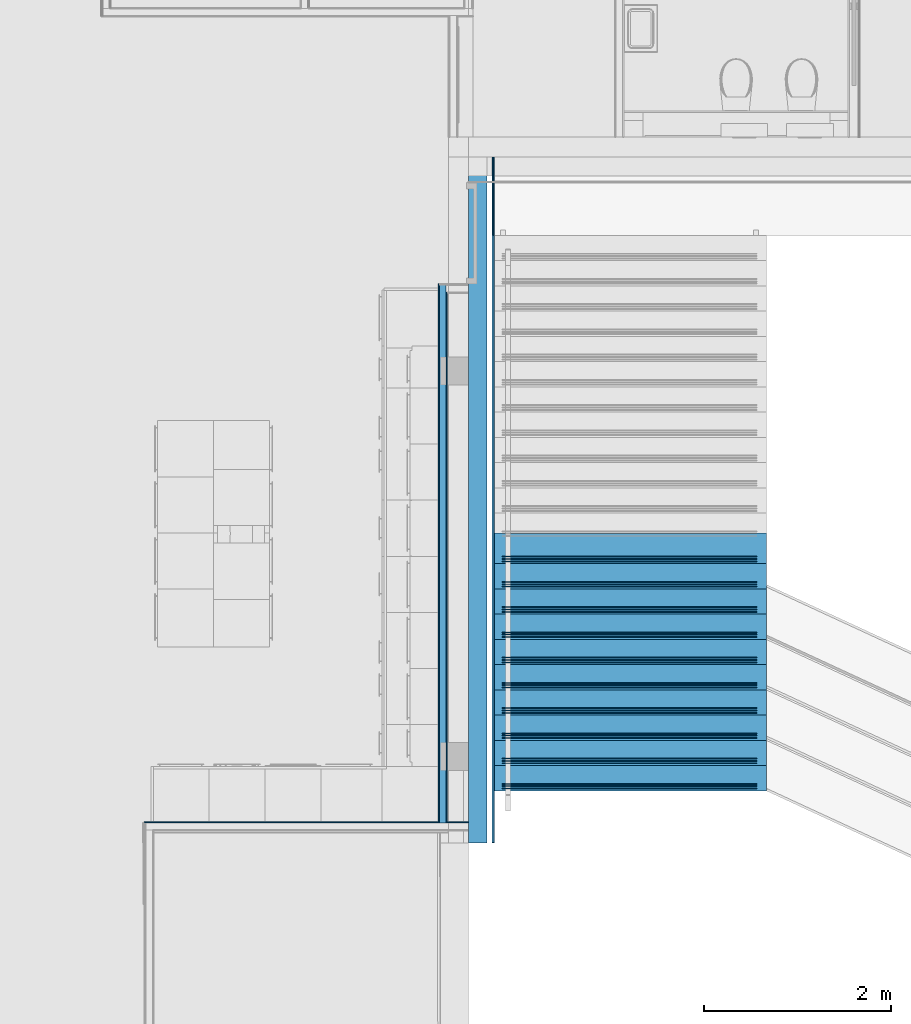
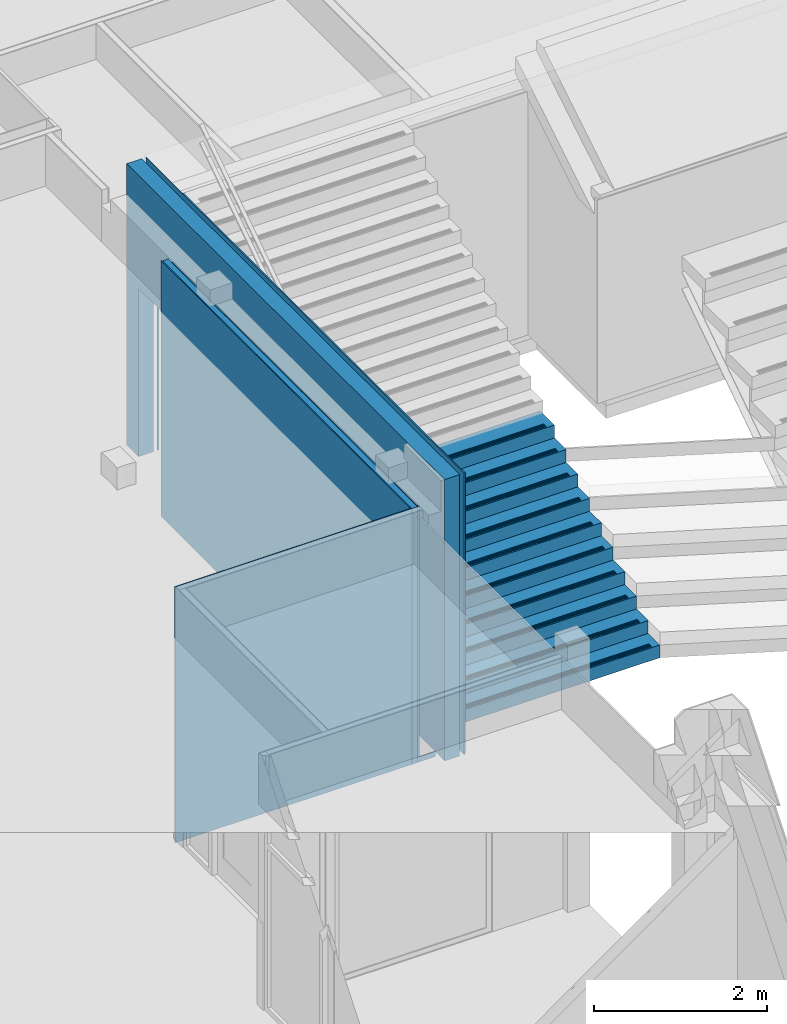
# One storey, part 68 of 167: 26 building element parts, 1 opening, 14 elements without a shape of their own.
"""IFC2X3 building model written with IfcOpenShell, lengths in millimetres."""

import ifcopenshell
import ifcopenshell.guid

model = None  # the IFC model being written
_history = None  # IfcOwnerHistory: only IFC2X3 demands one
_inside = {}  # id of a spatial element -> (the spatial element, [elements in it])
_under = {}  # id of a project, library or spatial element -> (it, [spatial elements below it])
_declared = {}  # id of a project -> (the project, [libraries it declares])
_typed = {}  # id of a type object -> (the type object, [elements of that type])
_made_of = {}  # id of a material, layer set ... -> (it, [elements and type objects made of it])


def new_model(schema):
    """Start an empty IFC model of exactly this schema.

    Asked for "IFC4X3", IfcOpenShell would pick the latest addendum, in which some entities
    have other attributes; the version numbers below select the first issue.
    IFC2X3 requires an IfcOwnerHistory on every rooted entity: one is made here for all.
    """
    global model, _history
    if schema == "IFC4X3":
        model = ifcopenshell.file(schema_version=(4, 3, 0, 0))
    else:
        model = ifcopenshell.file(schema=schema)
    _inside.clear()
    _under.clear()
    _declared.clear()
    _typed.clear()
    _made_of.clear()
    _history = None
    if model.schema == "IFC2X3":
        org = make("IfcOrganization", Name="unknown")
        user = make(
            "IfcPersonAndOrganization",
            ThePerson=make("IfcPerson", FamilyName="unknown"),
            TheOrganization=org,
        )
        app = make(
            "IfcApplication",
            ApplicationDeveloper=org,
            Version="unknown",
            ApplicationFullName="unknown",
            ApplicationIdentifier="unknown",
        )
        _history = make(
            "IfcOwnerHistory",
            OwningUser=user,
            OwningApplication=app,
            ChangeAction="ADDED",
            CreationDate=0,
        )
    return model


def make(cls, **values):
    """One entity of the class cls with the attributes given. An attribute that is None is left unset."""
    return model.create_entity(
        cls, **{name: value for name, value in values.items() if value is not None}
    )


def entity(cls, *values):
    """Any entity or typed value of the class cls, its attributes in the order of the schema. None: left unset."""
    e = model.create_entity(cls)
    for i, value in enumerate(values):
        if value is not None:
            e[i] = value
    return e


def rooted(cls, **values):
    """An entity with a GlobalId (a new one), such as an element, a storey or a relation."""
    return make(cls, GlobalId=ifcopenshell.guid.new(), OwnerHistory=_history, **values)


def si_unit(unit_type, name, prefix=None):
    """IfcSIUnit, for example si_unit("LENGTHUNIT", "METRE", prefix="MILLI")."""
    return make("IfcSIUnit", UnitType=unit_type, Prefix=prefix, Name=name)


def converted_unit(unit_type, name, factor, base, dimensions=None, offset=None):
    """IfcConversionBasedUnit, such as the inch: factor (a typed value) times the base unit."""
    return make(
        "IfcConversionBasedUnit"
        if offset is None
        else "IfcConversionBasedUnitWithOffset",
        ConversionOffset=offset,
        Dimensions=None
        if dimensions is None
        else entity("IfcDimensionalExponents", *dimensions),
        UnitType=unit_type,
        Name=name,
        ConversionFactor=make(
            "IfcMeasureWithUnit", ValueComponent=factor, UnitComponent=base
        ),
    )


def derived_unit(unit_type, elements):
    """IfcDerivedUnit: a product of units, each with its exponent."""
    return make(
        "IfcDerivedUnit",
        Elements=[
            make("IfcDerivedUnitElement", Unit=unit, Exponent=power)
            for unit, power in elements
        ],
        UnitType=unit_type,
    )


def money_unit(currency):
    """IfcMonetaryUnit."""
    return make("IfcMonetaryUnit", Currency=currency)


def assignment(units):
    """IfcUnitAssignment: the units of a project."""
    return None if units is None else make("IfcUnitAssignment", Units=units)


def point(xyz):
    """IfcCartesianPoint."""
    return None if xyz is None else make("IfcCartesianPoint", Coordinates=xyz)


def direction(xyz):
    """IfcDirection."""
    return None if xyz is None else make("IfcDirection", DirectionRatios=xyz)


def frame(location, z_axis=None, x_axis=None):
    """IfcAxis2Placement3D, a coordinate frame: its origin and axes. An axis left out is left unset."""
    return make(
        "IfcAxis2Placement3D",
        Location=point(location),
        Axis=direction(z_axis),
        RefDirection=direction(x_axis),
    )


def origin_with_axes():
    """The frame at (0, 0, 0) with the z axis (0, 0, 1) and the x axis (1, 0, 0) written out."""
    return frame((0.0, 0.0, 0.0), z_axis=(0.0, 0.0, 1.0), x_axis=(1.0, 0.0, 0.0))


def place(relative_to, where):
    """IfcLocalPlacement: puts the frame where relative to a parent placement (None: the world)."""
    return make(
        "IfcLocalPlacement", PlacementRelTo=relative_to, RelativePlacement=where
    )


def context(
    kind, dimensions, precision=None, world=None, true_north=None, identifier=None
):
    """IfcGeometricRepresentationContext, for example the 3D "Model" context."""
    return make(
        "IfcGeometricRepresentationContext",
        ContextIdentifier=identifier,
        ContextType=kind,
        CoordinateSpaceDimension=dimensions,
        Precision=precision,
        WorldCoordinateSystem=world,
        TrueNorth=true_north,
    )


def subcontext(parent, identifier, kind, view, scale=None):
    """IfcGeometricRepresentationSubContext, for example "Body" below "Model"."""
    return make(
        "IfcGeometricRepresentationSubContext",
        ContextIdentifier=identifier,
        ContextType=kind,
        ParentContext=parent,
        TargetScale=scale,
        TargetView=view,
    )


def project(units=None, contexts=None):
    """IfcProject with its units and contexts."""
    return rooted(
        "IfcProject",
        Name="project",
        RepresentationContexts=contexts,
        UnitsInContext=assignment(units),
    )


def spatial(cls, under=None, at=None, **own):
    """A site, building, storey or space (cls), placed at a placement, below another one or the project."""
    s = rooted(cls, ObjectPlacement=at, **own)
    if under is not None:
        _under.setdefault(under.id(), (under, []))[1].append(s)
    return s


def faces_of(points, faces, orient=None, outer=None):
    """IfcFace entities. A face is a list of loops; a loop is a list of indices into points, from 0.

    orient and outer hold one flag for each loop. By default every Orientation is true, the
    first loop of a face is its IfcFaceOuterBound and the others are IfcFaceBound.
    """
    made = []
    for i, loops in enumerate(faces):
        bounds = []
        for j, loop in enumerate(loops):
            is_outer = j == 0 if outer is None else outer[i][j]
            bounds.append(
                make(
                    "IfcFaceOuterBound" if is_outer else "IfcFaceBound",
                    Bound=make("IfcPolyLoop", Polygon=[points[k] for k in loop]),
                    Orientation=True if orient is None else orient[i][j],
                )
            )
        made.append(make("IfcFace", Bounds=bounds))
    return made


def faceted_brep(points, faces, orient=None, outer=None, voids=None):
    """IfcFacetedBrep: a solid bounded by flat faces; with voids (closed shells), ...WithVoids."""
    shared = [point(p) for p in points]
    hull = make("IfcClosedShell", CfsFaces=faces_of(shared, faces, orient, outer))
    if voids is None:
        return make("IfcFacetedBrep", Outer=hull)
    return make(
        "IfcFacetedBrepWithVoids",
        Outer=hull,
        Voids=[
            make(cls, CfsFaces=faces_of(shared, fs, o, b)) for cls, fs, o, b in voids
        ],
    )


def shape(context_of_items, identifier, shape_type, items):
    """IfcShapeRepresentation: the items that make up one representation, for example the "Body"."""
    return make(
        "IfcShapeRepresentation",
        ContextOfItems=context_of_items,
        RepresentationIdentifier=identifier,
        RepresentationType=shape_type,
        Items=items,
    )


def material(Name=None, Category=None):
    """IfcMaterial."""
    return make("IfcMaterial", Name=Name, Category=Category)


def made_of(thing, what):
    """Note that an element or type object is made of a material, layer set ...; save() writes the relation."""
    if what is not None:
        _made_of.setdefault(what.id(), (what, []))[1].append(thing)
    return thing


def type_object(cls, material=None, **own):
    """A type object (cls), such as IfcWallType, which elements share."""
    return made_of(rooted(cls, **own), material)


def element(
    cls,
    number,
    at=None,
    inside=None,
    cuts=None,
    type_object=None,
    material=None,
    context=None,
    identifier="Body",
    shape_type=None,
    held_by="IfcProductDefinitionShape",
    body=None,
    shapes=None,
    **own,
):
    """One element of the class cls, such as IfcWall. Its Tag is "e" and its number.

    at: its placement. inside: the storey or other place that contains it. cuts: it is an
    opening in that element (IfcRelVoidsElement). A single representation is given by context,
    identifier, shape_type and body (its items); several are given by shapes. held_by: the class
    of the entity that holds the representations. save() writes the other relations.
    """
    e = rooted(cls, Tag="e%d" % number, ObjectPlacement=at, **own)
    if body is not None:
        shapes = [shape(context, identifier, shape_type, body)]
    if shapes is not None:
        e.Representation = make(held_by, Representations=shapes)
    if inside is not None:
        _inside.setdefault(inside.id(), (inside, []))[1].append(e)
    if cuts is not None:
        rooted(
            "IfcRelVoidsElement", RelatingBuildingElement=cuts, RelatedOpeningElement=e
        )
    if type_object is not None:
        _typed.setdefault(type_object.id(), (type_object, []))[1].append(e)
    return made_of(e, material)


def aggregate(whole, parts):
    """IfcRelAggregates: a whole, such as a stair, and the parts it consists of."""
    return rooted("IfcRelAggregates", RelatingObject=whole, RelatedObjects=parts)


def save(model, path):
    """Write the relations noted so far, then the file.

    IfcRelAggregates (storeys below a building ...), IfcRelContainedInSpatialStructure (elements
    in a storey), IfcRelDefinesByType, IfcRelAssociatesMaterial and IfcRelDeclares: one each for
    every whole, place, type object, material and project.
    """
    for whole, parts in _under.values():
        aggregate(whole, parts)
    for where, things in _inside.values():
        rooted(
            "IfcRelContainedInSpatialStructure",
            RelatedElements=things,
            RelatingStructure=where,
        )
    for kind, things in _typed.values():
        rooted("IfcRelDefinesByType", RelatedObjects=things, RelatingType=kind)
    for what, things in _made_of.values():
        rooted("IfcRelAssociatesMaterial", RelatedObjects=things, RelatingMaterial=what)
    for by, libraries in _declared.values():
        rooted("IfcRelDeclares", RelatingContext=by, RelatedDefinitions=libraries)
    model.write(path)


model = new_model("IFC2X3")

# Units and contexts
model_context = context("Model", 3, precision=0.01, world=origin_with_axes(), true_north=direction((0.0, 1.0)))
plan_context = context("Plan", 3, precision=0.01, world=origin_with_axes(), true_north=direction((0.0, 1.0)))
body_context = subcontext(model_context, "Body", "Model", "MODEL_VIEW")
ifc_project = project(units=[si_unit("LENGTHUNIT", "METRE", prefix="MILLI"), si_unit("AREAUNIT", "SQUARE_METRE"), si_unit("VOLUMEUNIT", "CUBIC_METRE"), converted_unit("PLANEANGLEUNIT", "DEGREE", entity("IfcPlaneAngleMeasure", 0.0174532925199), si_unit("PLANEANGLEUNIT", "RADIAN"), dimensions=[0, 0, 0, 0, 0, 0, 0]), si_unit("SOLIDANGLEUNIT", "STERADIAN"), money_unit("EUR"), converted_unit("TIMEUNIT", "Year", entity("IfcTimeMeasure", 31556926.0), si_unit("TIMEUNIT", "SECOND"), dimensions=[0, 0, 1, 0, 0, 0, 0]), si_unit("MASSUNIT", "GRAM", prefix="KILO"), si_unit("THERMODYNAMICTEMPERATUREUNIT", "DEGREE_CELSIUS"), si_unit("LUMINOUSINTENSITYUNIT", "LUMEN"), si_unit("ENERGYUNIT", "JOULE", prefix="MEGA"), derived_unit("THERMALCONDUCTANCEUNIT", [(si_unit("POWERUNIT", "WATT"), 1), (si_unit("LENGTHUNIT", "METRE"), -1), (si_unit("THERMODYNAMICTEMPERATUREUNIT", "KELVIN"), -1)]), derived_unit("SPECIFICHEATCAPACITYUNIT", [(si_unit("ENERGYUNIT", "JOULE"), 1), (si_unit("MASSUNIT", "GRAM", prefix="KILO"), -1), (si_unit("THERMODYNAMICTEMPERATUREUNIT", "KELVIN"), -1)]), derived_unit("MASSDENSITYUNIT", [(si_unit("MASSUNIT", "GRAM", prefix="KILO"), 1), (si_unit("VOLUMEUNIT", "CUBIC_METRE"), -1)])], contexts=[model_context, plan_context])

# Site, building, storey
site_placement = place(None, origin_with_axes())
site = spatial("IfcSite", under=ifc_project, at=site_placement, Name="Site", CompositionType="ELEMENT")
building_placement = place(site_placement, origin_with_axes())
building = spatial("IfcBuilding", under=site, at=building_placement, Name="Naam gebouw", CompositionType="ELEMENT")
storey_placement = place(building_placement, origin_with_axes())
storey = spatial("IfcBuildingStorey", under=building, at=storey_placement, Name="Begane grond", CompositionType="ELEMENT", Elevation=0.0)

# Wall, opening, building element parts
wall_type_1 = type_object("IfcWallType", Name="_TenW_21_Spouwmuur ht-kz-214- RC 4,7 488", PredefinedType="NOTDEFINED")
wall_1_placement = place(storey_placement, frame((28800.0, 23751.7865001, 0.0), z_axis=(0.0, 0.0, 1.0), x_axis=(0.0, 1.0, 0.0)))
wall_1 = element("IfcWall", 1, at=wall_1_placement, inside=storey, type_object=wall_type_1, Name="21_Wand_Wand-x")
opening_placement = place(wall_1_placement, frame((6518.99827374, 0.0, 0.0), z_axis=(0.0, 0.0, 1.0), x_axis=(1.0, 0.0, 0.0)))
element("IfcOpeningElement", 2, at=opening_placement, cuts=wall_1, Name="32_Deur_He-05", context=body_context, shape_type="Brep", body=[
    faceted_brep([(542.0, -94.0, 2367.0), (542.0, -94.0, 0.0), (542.0, 702.0, 0.0), (542.0, 702.0, 2367.0), (-542.0, -94.0, 2367.0), (-542.0, -94.0, 0.0), (-542.0, 702.0, 0.0), (-542.0, 702.0, 2367.0)], [[[0, 1, 2, 3]], [[0, 4, 5, 1]], [[1, 5, 6, 2]], [[3, 2, 6, 7]], [[4, 0, 3, 7]], [[5, 4, 7, 6]]]),
    faceted_brep([(542.0, -94.0, 0.0), (542.0, -94.0, 2367.0), (542.0, -762.0, 2367.0), (542.0, -762.0, 0.0), (-542.0, -94.0, 0.0), (-542.0, -94.0, 2367.0), (-542.0, -762.0, 2367.0), (-542.0, -762.0, 0.0)], [[[0, 1, 2, 3]], [[0, 4, 5, 1]], [[1, 5, 6, 2]], [[3, 2, 6, 7]], [[4, 0, 3, 7]], [[5, 4, 7, 6]]]),
])
ifc_material_1 = material(Name="Isolatie - Steenwol zacht")
building_element_part_1_placement = place(wall_1_placement, origin_with_axes())
building_element_part_1 = element("IfcBuildingElementPart", 3, at=building_element_part_1_placement, material=ifc_material_1, Name="Isolatie - Steenwol zacht", context=body_context, shape_type="Brep", body=[
    faceted_brep([(5976.99827374, -200.0, 0.0), (5976.99827374, -200.0, 2367.0), (7060.99827374, -200.0, 2367.0), (7060.99827374, -200.0, 0.0), (7334.21327385, -200.0, 0.0), (7334.21327375, -200.0, 3325.00001797), (7334.21327374, -200.0, 3960.0), (0.0, -200.0, 3960.0), (0.0, -200.0, 0.0), (5976.99827374, -94.0, 0.0), (5976.99827374, -94.0, 2367.0), (7060.99827374, -94.0, 2367.0), (7060.99827374, -94.0, 0.0), (7060.99827374, 0.0, 0.0), (7334.21327385, 0.0, 0.0), (7334.21327374, 0.0, 3325.00001793), (7334.21327374, 0.0, 3960.0), (0.0, 0.0, 3960.0), (0.0, 0.0, 0.0), (5976.99827374, 0.0, 0.0), (5976.99827374, 0.0, 2367.0), (7060.99827374, 0.0, 2367.0)], [[[0, 1, 2, 3, 4, 5, 6, 7, 8]], [[1, 0, 9, 10]], [[2, 1, 10, 11]], [[3, 2, 11, 12]], [[12, 13, 14, 4, 3]], [[4, 14, 15, 5]], [[16, 6, 5, 15]], [[16, 17, 7, 6]], [[18, 8, 7, 17]], [[9, 0, 8, 18, 19]], [[9, 19, 20, 10]], [[20, 21, 11, 10]], [[13, 12, 11, 21]], [[20, 19, 18, 17, 16, 15, 14, 13, 21]]]),
])
ifc_material_2 = material(Name="_TenW_21_Hout betimmering")
building_element_part_2_placement = place(wall_1_placement, origin_with_axes())
building_element_part_2 = element("IfcBuildingElementPart", 4, at=building_element_part_2_placement, material=ifc_material_2, Name="_TenW_21_Hout betimmering", context=body_context, shape_type="Brep", body=[
    faceted_brep([(5976.99827374, -274.0, 0.0), (5976.99827374, -274.0, 2367.0), (7060.21327374, -274.0, 2367.0), (7060.21327374, -274.0, 0.0), (7078.21327648, -274.0, 0.0), (7078.213274, -274.0, 3325.00001798), (7334.21327375, -274.0, 3325.00001798), (7334.21327374, -274.0, 3780.0), (6496.22636498, -274.0, 3780.0), (6496.22636498, -274.0, 3960.0), (0.0, -274.0, 3960.0), (0.0, -274.0, 0.0), (5976.99827374, -256.0, 0.0), (5976.99827374, -256.0, 2367.0), (7060.99827374, -256.0, 2367.0), (7060.99827374, -273.215, 2367.0), (7060.99827374, -273.215, 0.0), (7060.99827374, -256.0, 0.0), (7078.21327649, -256.0, 0.0), (7078.21327399, -256.0, 3325.00001798), (7334.21327375, -256.0, 3325.00001798), (7334.21327374, -256.0, 3960.0), (7334.21327374, -259.955972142, 3960.0), (7334.21327375, -259.955972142, 3780.0), (6496.22636498, -259.955972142, 3780.0), (6496.22636498, -259.955972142, 3960.0), (0.0, -256.0, 3960.0), (0.0, -256.0, 0.0)], [[[0, 1, 2, 3, 4, 5, 6, 7, 8, 9, 10, 11]], [[1, 0, 12, 13]], [[2, 1, 13, 14, 15]], [[3, 2, 15, 16]], [[16, 17, 18, 4, 3]], [[18, 19, 5, 4]], [[19, 20, 6, 5]], [[21, 22, 23, 7, 6, 20]], [[24, 8, 7, 23]], [[24, 25, 9, 8]], [[9, 25, 22, 21, 26, 10]], [[27, 11, 10, 26]], [[12, 0, 11, 27]], [[13, 12, 27, 26, 21, 20, 19, 18, 17, 14]], [[17, 16, 15, 14]], [[24, 23, 22, 25]]]),
])
aggregate(wall_1, [building_element_part_1, building_element_part_2])

# Wall, building element part
wall_type_2 = type_object("IfcWallType", Name="_TenW_22_Metalstud 100 enkel gipsvezelplaat 100", PredefinedType="NOTDEFINED")
wall_2_placement = place(storey_placement, frame((28800.0, 23929.2322881, -100.0), z_axis=(0.0, 0.0, 1.0), x_axis=(-1.0, 0.0, 0.0)))
wall_2 = element("IfcWall", 5, at=wall_2_placement, inside=storey, type_object=wall_type_2, Name="22_Wand_Wand-x")
ifc_material_3 = material(Name="Gipsplaat watervast")
building_element_part_3_placement = place(wall_2_placement, origin_with_axes())
building_element_part_3 = element("IfcBuildingElementPart", 6, at=building_element_part_3_placement, material=ifc_material_3, Name="Gipsplaat watervast", context=body_context, shape_type="Brep", body=[
    faceted_brep([(3465.55768609, -50.0, 3630.0), (312.5, -50.0, 3630.0), (312.5, -50.0, 30.0), (3465.55768609, -50.0, 30.0), (312.5, -37.5, 3630.0), (3465.55768609, -37.5, 3630.0), (312.5, -37.5, 30.0), (3465.55768609, -37.5, 30.0)], [[[0, 1, 2, 3]], [[4, 1, 0, 5]], [[1, 4, 6, 2]], [[3, 2, 6, 7]], [[5, 0, 3, 7]], [[4, 5, 7, 6]]]),
    faceted_brep([(237.5, -50.0, 3630.0), (213.99999988, -50.0, 3630.0), (214.0, -50.0, 100.0), (0.0, -50.0, 100.0), (0.0, -50.0, 30.0), (237.5, -50.0, 30.0), (213.999999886, -37.5, 3630.0), (237.5, -37.5, 3630.0), (214.0, -37.5, 100.0), (0.0, -37.5, 100.0), (0.0, -37.5, 30.0), (237.5, -37.5, 30.0)], [[[0, 1, 2, 3, 4, 5]], [[6, 1, 0, 7]], [[1, 6, 8, 2]], [[8, 9, 3, 2]], [[10, 4, 3, 9]], [[5, 4, 10, 11]], [[7, 0, 5, 11]], [[6, 7, 11, 10, 9, 8]]]),
])
aggregate(wall_2, [building_element_part_3])

# Stair, members, building element parts
stair_placement = place(storey_placement, frame((29059.9559721, 24308.0128651, 0.0), z_axis=(0.0, 0.0, 1.0), x_axis=(1.0, 0.0, 0.0)))
stair = element("IfcStair", 7, at=stair_placement, inside=storey, Name="_Trap_Trap-x", ShapeType="NOTDEFINED")
member_type = type_object("IfcMemberType", Name="IfcMember", PredefinedType="USERDEFINED")
member_1_placement = place(stair_placement, frame((1500.0, 0.0, 180.0), z_axis=(0.0, 0.0, 1.0), x_axis=(1.0, 0.0, 0.0)))
member_1 = element("IfcMember", 8, at=member_1_placement, type_object=member_type, Name="_Trap - trede_Traptrede-x")
ifc_material_4 = material(Name="Beton gewapend prefab")
building_element_part_4_placement = place(member_1_placement, origin_with_axes())
building_element_part_4 = element("IfcBuildingElementPart", 9, at=building_element_part_4_placement, material=ifc_material_4, Name="Beton gewapend prefab", context=body_context, shape_type="Brep", body=[
    faceted_brep([(-1500.0, 0.0, -180.0), (1426.0418928, 0.0, -180.0), (1426.0418928, 0.0, 0.0), (-1500.0, 0.0, 0.0), (-1500.0, 329.999987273, -180.0), (1426.0418928, 329.999987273, -180.0), (1426.0418928, 329.999987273, 0.0), (-1500.0, 329.999987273, 0.0)], [[[0, 1, 2, 3]], [[0, 4, 5, 1]], [[1, 5, 6, 2]], [[3, 2, 6, 7]], [[4, 0, 3, 7]], [[5, 4, 7, 6]]]),
])
ifc_material_5 = material(Name="Beton gewapend prefab vloer")
building_element_part_5_placement = place(member_1_placement, origin_with_axes())
building_element_part_5 = element("IfcBuildingElementPart", 10, at=building_element_part_5_placement, material=ifc_material_5, Name="Beton gewapend prefab vloer", context=body_context, shape_type="Brep", body=[
    faceted_brep([(-1399.99999989, 19.9999913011, 0.0), (-1399.99999989, 29.9999913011, 0.0), (1326.04189269, 29.9999913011, 0.0), (1326.04189269, 19.9999913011, 0.0), (-1399.99999989, 19.9999913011, 3.0), (-1399.99999989, 29.9999913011, 3.0), (1326.04189269, 29.9999913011, 3.0), (1326.04189269, 19.9999913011, 3.0)], [[[0, 1, 2, 3]], [[0, 4, 5, 1]], [[1, 5, 6, 2]], [[3, 2, 6, 7]], [[4, 0, 3, 7]], [[5, 4, 7, 6]]]),
    faceted_brep([(-1399.99999989, 44.9999804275, 0.0), (-1399.99999989, 54.9999804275, 0.0), (1326.04189269, 54.9999804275, 0.0), (1326.04189269, 44.9999804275, 0.0), (-1399.99999989, 44.9999804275, 3.0), (-1399.99999989, 54.9999804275, 3.0), (1326.04189269, 54.9999804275, 3.0), (1326.04189269, 44.9999804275, 3.0)], [[[0, 1, 2, 3]], [[0, 4, 5, 1]], [[1, 5, 6, 2]], [[3, 2, 6, 7]], [[4, 0, 3, 7]], [[5, 4, 7, 6]]]),
    faceted_brep([(-1399.99999989, 70.0000131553, 0.0), (-1399.99999989, 80.0000131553, 0.0), (1326.04189269, 80.0000131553, 0.0), (1326.04189269, 70.0000131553, 0.0), (-1399.99999989, 70.0000131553, 3.0), (-1399.99999989, 80.0000131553, 3.0), (1326.04189269, 80.0000131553, 3.0), (1326.04189269, 70.0000131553, 3.0)], [[[0, 1, 2, 3]], [[0, 4, 5, 1]], [[1, 5, 6, 2]], [[3, 2, 6, 7]], [[4, 0, 3, 7]], [[5, 4, 7, 6]]]),
])
aggregate(member_1, [building_element_part_4, building_element_part_5])
member_2_placement = place(stair_placement, frame((1500.0, 270.0, 360.0), z_axis=(0.0, 0.0, 1.0), x_axis=(1.0, 0.0, 0.0)))
member_2 = element("IfcMember", 11, at=member_2_placement, type_object=member_type, Name="_Trap - trede_Traptrede-x")
building_element_part_6_placement = place(member_2_placement, origin_with_axes())
building_element_part_6 = element("IfcBuildingElementPart", 12, at=building_element_part_6_placement, material=ifc_material_4, Name="Beton gewapend prefab", context=body_context, shape_type="Brep", body=[
    faceted_brep([(-1500.0, 0.0, -180.0), (1426.0418928, 0.0, -180.0), (1426.0418928, 0.0, 0.0), (-1500.0, 0.0, 0.0), (-1500.0, 329.999987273, -180.0), (1426.0418928, 329.999987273, -180.0), (1426.0418928, 329.999987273, 0.0), (-1500.0, 329.999987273, 0.0)], [[[0, 1, 2, 3]], [[0, 4, 5, 1]], [[1, 5, 6, 2]], [[3, 2, 6, 7]], [[4, 0, 3, 7]], [[5, 4, 7, 6]]]),
])
building_element_part_7_placement = place(member_2_placement, origin_with_axes())
building_element_part_7 = element("IfcBuildingElementPart", 13, at=building_element_part_7_placement, material=ifc_material_5, Name="Beton gewapend prefab vloer", context=body_context, shape_type="Brep", body=[
    faceted_brep([(-1399.99999989, 19.9999913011, 0.0), (-1399.99999989, 29.9999913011, 0.0), (1326.04189269, 29.9999913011, 0.0), (1326.04189269, 19.9999913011, 0.0), (-1399.99999989, 19.9999913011, 3.0), (-1399.99999989, 29.9999913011, 3.0), (1326.04189269, 29.9999913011, 3.0), (1326.04189269, 19.9999913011, 3.0)], [[[0, 1, 2, 3]], [[0, 4, 5, 1]], [[1, 5, 6, 2]], [[3, 2, 6, 7]], [[4, 0, 3, 7]], [[5, 4, 7, 6]]]),
    faceted_brep([(-1399.99999989, 44.9999804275, 0.0), (-1399.99999989, 54.9999804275, 0.0), (1326.04189269, 54.9999804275, 0.0), (1326.04189269, 44.9999804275, 0.0), (-1399.99999989, 44.9999804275, 3.0), (-1399.99999989, 54.9999804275, 3.0), (1326.04189269, 54.9999804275, 3.0), (1326.04189269, 44.9999804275, 3.0)], [[[0, 1, 2, 3]], [[0, 4, 5, 1]], [[1, 5, 6, 2]], [[3, 2, 6, 7]], [[4, 0, 3, 7]], [[5, 4, 7, 6]]]),
    faceted_brep([(-1399.99999989, 70.0000131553, 0.0), (-1399.99999989, 80.0000131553, 0.0), (1326.04189269, 80.0000131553, 0.0), (1326.04189269, 70.0000131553, 0.0), (-1399.99999989, 70.0000131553, 3.0), (-1399.99999989, 80.0000131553, 3.0), (1326.04189269, 80.0000131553, 3.0), (1326.04189269, 70.0000131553, 3.0)], [[[0, 1, 2, 3]], [[0, 4, 5, 1]], [[1, 5, 6, 2]], [[3, 2, 6, 7]], [[4, 0, 3, 7]], [[5, 4, 7, 6]]]),
])
aggregate(member_2, [building_element_part_6, building_element_part_7])
member_3_placement = place(stair_placement, frame((1500.0, 540.0, 540.0), z_axis=(0.0, 0.0, 1.0), x_axis=(1.0, 0.0, 0.0)))
member_3 = element("IfcMember", 14, at=member_3_placement, type_object=member_type, Name="_Trap - trede_Traptrede-x")
building_element_part_8_placement = place(member_3_placement, origin_with_axes())
building_element_part_8 = element("IfcBuildingElementPart", 15, at=building_element_part_8_placement, material=ifc_material_4, Name="Beton gewapend prefab", context=body_context, shape_type="Brep", body=[
    faceted_brep([(-1500.0, 0.0, -180.0), (1426.0418928, 0.0, -180.0), (1426.0418928, 0.0, 0.0), (-1500.0, 0.0, 0.0), (-1500.0, 329.999987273, -180.0), (1426.0418928, 329.999987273, -180.0), (1426.0418928, 329.999987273, 0.0), (-1500.0, 329.999987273, 0.0)], [[[0, 1, 2, 3]], [[0, 4, 5, 1]], [[1, 5, 6, 2]], [[3, 2, 6, 7]], [[4, 0, 3, 7]], [[5, 4, 7, 6]]]),
])
building_element_part_9_placement = place(member_3_placement, origin_with_axes())
building_element_part_9 = element("IfcBuildingElementPart", 16, at=building_element_part_9_placement, material=ifc_material_5, Name="Beton gewapend prefab vloer", context=body_context, shape_type="Brep", body=[
    faceted_brep([(-1399.99999989, 19.9999913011, 0.0), (-1399.99999989, 29.9999913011, 0.0), (1326.04189269, 29.9999913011, 0.0), (1326.04189269, 19.9999913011, 0.0), (-1399.99999989, 19.9999913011, 3.0), (-1399.99999989, 29.9999913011, 3.0), (1326.04189269, 29.9999913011, 3.0), (1326.04189269, 19.9999913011, 3.0)], [[[0, 1, 2, 3]], [[0, 4, 5, 1]], [[1, 5, 6, 2]], [[3, 2, 6, 7]], [[4, 0, 3, 7]], [[5, 4, 7, 6]]]),
    faceted_brep([(-1399.99999989, 44.9999804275, 0.0), (-1399.99999989, 54.9999804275, 0.0), (1326.04189269, 54.9999804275, 0.0), (1326.04189269, 44.9999804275, 0.0), (-1399.99999989, 44.9999804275, 3.0), (-1399.99999989, 54.9999804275, 3.0), (1326.04189269, 54.9999804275, 3.0), (1326.04189269, 44.9999804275, 3.0)], [[[0, 1, 2, 3]], [[0, 4, 5, 1]], [[1, 5, 6, 2]], [[3, 2, 6, 7]], [[4, 0, 3, 7]], [[5, 4, 7, 6]]]),
    faceted_brep([(-1399.99999989, 70.0000131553, 0.0), (-1399.99999989, 80.0000131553, 0.0), (1326.04189269, 80.0000131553, 0.0), (1326.04189269, 70.0000131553, 0.0), (-1399.99999989, 70.0000131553, 3.0), (-1399.99999989, 80.0000131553, 3.0), (1326.04189269, 80.0000131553, 3.0), (1326.04189269, 70.0000131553, 3.0)], [[[0, 1, 2, 3]], [[0, 4, 5, 1]], [[1, 5, 6, 2]], [[3, 2, 6, 7]], [[4, 0, 3, 7]], [[5, 4, 7, 6]]]),
])
aggregate(member_3, [building_element_part_8, building_element_part_9])
member_4_placement = place(stair_placement, frame((1500.0, 810.0, 720.0), z_axis=(0.0, 0.0, 1.0), x_axis=(1.0, 0.0, 0.0)))
member_4 = element("IfcMember", 17, at=member_4_placement, type_object=member_type, Name="_Trap - trede_Traptrede-x")
building_element_part_10_placement = place(member_4_placement, origin_with_axes())
building_element_part_10 = element("IfcBuildingElementPart", 18, at=building_element_part_10_placement, material=ifc_material_4, Name="Beton gewapend prefab", context=body_context, shape_type="Brep", body=[
    faceted_brep([(-1500.0, 0.0, -180.0), (1426.0418928, 0.0, -180.0), (1426.0418928, 0.0, 0.0), (-1500.0, 0.0, 0.0), (-1500.0, 329.999987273, -180.0), (1426.0418928, 329.999987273, -180.0), (1426.0418928, 329.999987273, 0.0), (-1500.0, 329.999987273, 0.0)], [[[0, 1, 2, 3]], [[0, 4, 5, 1]], [[1, 5, 6, 2]], [[3, 2, 6, 7]], [[4, 0, 3, 7]], [[5, 4, 7, 6]]]),
])
building_element_part_11_placement = place(member_4_placement, origin_with_axes())
building_element_part_11 = element("IfcBuildingElementPart", 19, at=building_element_part_11_placement, material=ifc_material_5, Name="Beton gewapend prefab vloer", context=body_context, shape_type="Brep", body=[
    faceted_brep([(-1399.99999989, 19.9999913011, 0.0), (-1399.99999989, 29.9999913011, 0.0), (1326.04189269, 29.9999913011, 0.0), (1326.04189269, 19.9999913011, 0.0), (-1399.99999989, 19.9999913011, 3.0), (-1399.99999989, 29.9999913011, 3.0), (1326.04189269, 29.9999913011, 3.0), (1326.04189269, 19.9999913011, 3.0)], [[[0, 1, 2, 3]], [[0, 4, 5, 1]], [[1, 5, 6, 2]], [[3, 2, 6, 7]], [[4, 0, 3, 7]], [[5, 4, 7, 6]]]),
    faceted_brep([(-1399.99999989, 44.9999804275, 0.0), (-1399.99999989, 54.9999804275, 0.0), (1326.04189269, 54.9999804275, 0.0), (1326.04189269, 44.9999804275, 0.0), (-1399.99999989, 44.9999804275, 3.0), (-1399.99999989, 54.9999804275, 3.0), (1326.04189269, 54.9999804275, 3.0), (1326.04189269, 44.9999804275, 3.0)], [[[0, 1, 2, 3]], [[0, 4, 5, 1]], [[1, 5, 6, 2]], [[3, 2, 6, 7]], [[4, 0, 3, 7]], [[5, 4, 7, 6]]]),
    faceted_brep([(-1399.99999989, 70.0000131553, 0.0), (-1399.99999989, 80.0000131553, 0.0), (1326.04189269, 80.0000131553, 0.0), (1326.04189269, 70.0000131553, 0.0), (-1399.99999989, 70.0000131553, 3.0), (-1399.99999989, 80.0000131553, 3.0), (1326.04189269, 80.0000131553, 3.0), (1326.04189269, 70.0000131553, 3.0)], [[[0, 1, 2, 3]], [[0, 4, 5, 1]], [[1, 5, 6, 2]], [[3, 2, 6, 7]], [[4, 0, 3, 7]], [[5, 4, 7, 6]]]),
])
aggregate(member_4, [building_element_part_10, building_element_part_11])
member_5_placement = place(stair_placement, frame((1500.0, 1080.0, 900.0), z_axis=(0.0, 0.0, 1.0), x_axis=(1.0, 0.0, 0.0)))
member_5 = element("IfcMember", 20, at=member_5_placement, type_object=member_type, Name="_Trap - trede_Traptrede-x")
building_element_part_12_placement = place(member_5_placement, origin_with_axes())
building_element_part_12 = element("IfcBuildingElementPart", 21, at=building_element_part_12_placement, material=ifc_material_4, Name="Beton gewapend prefab", context=body_context, shape_type="Brep", body=[
    faceted_brep([(-1500.0, 0.0, -180.0), (1426.0418928, 0.0, -180.0), (1426.0418928, 0.0, 0.0), (-1500.0, 0.0, 0.0), (-1500.0, 329.999987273, -180.0), (1426.0418928, 329.999987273, -180.0), (1426.0418928, 329.999987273, 0.0), (-1500.0, 329.999987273, 0.0)], [[[0, 1, 2, 3]], [[0, 4, 5, 1]], [[1, 5, 6, 2]], [[3, 2, 6, 7]], [[4, 0, 3, 7]], [[5, 4, 7, 6]]]),
])
building_element_part_13_placement = place(member_5_placement, origin_with_axes())
building_element_part_13 = element("IfcBuildingElementPart", 22, at=building_element_part_13_placement, material=ifc_material_5, Name="Beton gewapend prefab vloer", context=body_context, shape_type="Brep", body=[
    faceted_brep([(-1399.99999989, 19.9999913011, 0.0), (-1399.99999989, 29.9999913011, 0.0), (1326.04189269, 29.9999913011, 0.0), (1326.04189269, 19.9999913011, 0.0), (-1399.99999989, 19.9999913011, 3.0), (-1399.99999989, 29.9999913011, 3.0), (1326.04189269, 29.9999913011, 3.0), (1326.04189269, 19.9999913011, 3.0)], [[[0, 1, 2, 3]], [[0, 4, 5, 1]], [[1, 5, 6, 2]], [[3, 2, 6, 7]], [[4, 0, 3, 7]], [[5, 4, 7, 6]]]),
    faceted_brep([(-1399.99999989, 44.9999804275, 0.0), (-1399.99999989, 54.9999804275, 0.0), (1326.04189269, 54.9999804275, 0.0), (1326.04189269, 44.9999804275, 0.0), (-1399.99999989, 44.9999804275, 3.0), (-1399.99999989, 54.9999804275, 3.0), (1326.04189269, 54.9999804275, 3.0), (1326.04189269, 44.9999804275, 3.0)], [[[0, 1, 2, 3]], [[0, 4, 5, 1]], [[1, 5, 6, 2]], [[3, 2, 6, 7]], [[4, 0, 3, 7]], [[5, 4, 7, 6]]]),
    faceted_brep([(-1399.99999989, 70.0000131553, 0.0), (-1399.99999989, 80.0000131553, 0.0), (1326.04189269, 80.0000131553, 0.0), (1326.04189269, 70.0000131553, 0.0), (-1399.99999989, 70.0000131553, 3.0), (-1399.99999989, 80.0000131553, 3.0), (1326.04189269, 80.0000131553, 3.0), (1326.04189269, 70.0000131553, 3.0)], [[[0, 1, 2, 3]], [[0, 4, 5, 1]], [[1, 5, 6, 2]], [[3, 2, 6, 7]], [[4, 0, 3, 7]], [[5, 4, 7, 6]]]),
])
aggregate(member_5, [building_element_part_12, building_element_part_13])
member_6_placement = place(stair_placement, frame((1500.0, 1350.0, 1080.0), z_axis=(0.0, 0.0, 1.0), x_axis=(1.0, 0.0, 0.0)))
member_6 = element("IfcMember", 23, at=member_6_placement, type_object=member_type, Name="_Trap - trede_Traptrede-x")
building_element_part_14_placement = place(member_6_placement, origin_with_axes())
building_element_part_14 = element("IfcBuildingElementPart", 24, at=building_element_part_14_placement, material=ifc_material_4, Name="Beton gewapend prefab", context=body_context, shape_type="Brep", body=[
    faceted_brep([(-1500.0, 0.0, -180.0), (1426.0418928, 0.0, -180.0), (1426.0418928, 0.0, 0.0), (-1500.0, 0.0, 0.0), (-1500.0, 329.999987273, -180.0), (1426.0418928, 329.999987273, -180.0), (1426.0418928, 329.999987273, 0.0), (-1500.0, 329.999987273, 0.0)], [[[0, 1, 2, 3]], [[0, 4, 5, 1]], [[1, 5, 6, 2]], [[3, 2, 6, 7]], [[4, 0, 3, 7]], [[5, 4, 7, 6]]]),
])
building_element_part_15_placement = place(member_6_placement, origin_with_axes())
building_element_part_15 = element("IfcBuildingElementPart", 25, at=building_element_part_15_placement, material=ifc_material_5, Name="Beton gewapend prefab vloer", context=body_context, shape_type="Brep", body=[
    faceted_brep([(-1399.99999989, 19.9999913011, 0.0), (-1399.99999989, 29.9999913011, 0.0), (1326.04189269, 29.9999913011, 0.0), (1326.04189269, 19.9999913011, 0.0), (-1399.99999989, 19.9999913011, 3.0), (-1399.99999989, 29.9999913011, 3.0), (1326.04189269, 29.9999913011, 3.0), (1326.04189269, 19.9999913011, 3.0)], [[[0, 1, 2, 3]], [[0, 4, 5, 1]], [[1, 5, 6, 2]], [[3, 2, 6, 7]], [[4, 0, 3, 7]], [[5, 4, 7, 6]]]),
    faceted_brep([(-1399.99999989, 44.9999804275, 0.0), (-1399.99999989, 54.9999804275, 0.0), (1326.04189269, 54.9999804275, 0.0), (1326.04189269, 44.9999804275, 0.0), (-1399.99999989, 44.9999804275, 3.0), (-1399.99999989, 54.9999804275, 3.0), (1326.04189269, 54.9999804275, 3.0), (1326.04189269, 44.9999804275, 3.0)], [[[0, 1, 2, 3]], [[0, 4, 5, 1]], [[1, 5, 6, 2]], [[3, 2, 6, 7]], [[4, 0, 3, 7]], [[5, 4, 7, 6]]]),
    faceted_brep([(-1399.99999989, 70.0000131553, 0.0), (-1399.99999989, 80.0000131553, 0.0), (1326.04189269, 80.0000131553, 0.0), (1326.04189269, 70.0000131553, 0.0), (-1399.99999989, 70.0000131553, 3.0), (-1399.99999989, 80.0000131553, 3.0), (1326.04189269, 80.0000131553, 3.0), (1326.04189269, 70.0000131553, 3.0)], [[[0, 1, 2, 3]], [[0, 4, 5, 1]], [[1, 5, 6, 2]], [[3, 2, 6, 7]], [[4, 0, 3, 7]], [[5, 4, 7, 6]]]),
])
aggregate(member_6, [building_element_part_14, building_element_part_15])
member_7_placement = place(stair_placement, frame((1500.0, 1620.0, 1260.0), z_axis=(0.0, 0.0, 1.0), x_axis=(1.0, 0.0, 0.0)))
member_7 = element("IfcMember", 26, at=member_7_placement, type_object=member_type, Name="_Trap - trede_Traptrede-x")
building_element_part_16_placement = place(member_7_placement, origin_with_axes())
building_element_part_16 = element("IfcBuildingElementPart", 27, at=building_element_part_16_placement, material=ifc_material_4, Name="Beton gewapend prefab", context=body_context, shape_type="Brep", body=[
    faceted_brep([(-1500.0, 0.0, -180.0), (1426.0418928, 0.0, -180.0), (1426.0418928, 0.0, 0.0), (-1500.0, 0.0, 0.0), (-1500.0, 329.999987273, -180.0), (1426.0418928, 329.999987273, -180.0), (1426.0418928, 329.999987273, 0.0), (-1500.0, 329.999987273, 0.0)], [[[0, 1, 2, 3]], [[0, 4, 5, 1]], [[1, 5, 6, 2]], [[3, 2, 6, 7]], [[4, 0, 3, 7]], [[5, 4, 7, 6]]]),
])
building_element_part_17_placement = place(member_7_placement, origin_with_axes())
building_element_part_17 = element("IfcBuildingElementPart", 28, at=building_element_part_17_placement, material=ifc_material_5, Name="Beton gewapend prefab vloer", context=body_context, shape_type="Brep", body=[
    faceted_brep([(-1399.99999989, 19.9999913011, 0.0), (-1399.99999989, 29.9999913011, 0.0), (1326.04189269, 29.9999913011, 0.0), (1326.04189269, 19.9999913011, 0.0), (-1399.99999989, 19.9999913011, 3.0), (-1399.99999989, 29.9999913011, 3.0), (1326.04189269, 29.9999913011, 3.0), (1326.04189269, 19.9999913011, 3.0)], [[[0, 1, 2, 3]], [[0, 4, 5, 1]], [[1, 5, 6, 2]], [[3, 2, 6, 7]], [[4, 0, 3, 7]], [[5, 4, 7, 6]]]),
    faceted_brep([(-1399.99999989, 44.9999804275, 0.0), (-1399.99999989, 54.9999804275, 0.0), (1326.04189269, 54.9999804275, 0.0), (1326.04189269, 44.9999804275, 0.0), (-1399.99999989, 44.9999804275, 3.0), (-1399.99999989, 54.9999804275, 3.0), (1326.04189269, 54.9999804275, 3.0), (1326.04189269, 44.9999804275, 3.0)], [[[0, 1, 2, 3]], [[0, 4, 5, 1]], [[1, 5, 6, 2]], [[3, 2, 6, 7]], [[4, 0, 3, 7]], [[5, 4, 7, 6]]]),
    faceted_brep([(-1399.99999989, 70.0000131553, 0.0), (-1399.99999989, 80.0000131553, 0.0), (1326.04189269, 80.0000131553, 0.0), (1326.04189269, 70.0000131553, 0.0), (-1399.99999989, 70.0000131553, 3.0), (-1399.99999989, 80.0000131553, 3.0), (1326.04189269, 80.0000131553, 3.0), (1326.04189269, 70.0000131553, 3.0)], [[[0, 1, 2, 3]], [[0, 4, 5, 1]], [[1, 5, 6, 2]], [[3, 2, 6, 7]], [[4, 0, 3, 7]], [[5, 4, 7, 6]]]),
])
aggregate(member_7, [building_element_part_16, building_element_part_17])
member_8_placement = place(stair_placement, frame((1500.0, 1890.0, 1440.0), z_axis=(0.0, 0.0, 1.0), x_axis=(1.0, 0.0, 0.0)))
member_8 = element("IfcMember", 29, at=member_8_placement, type_object=member_type, Name="_Trap - trede_Traptrede-x")
building_element_part_18_placement = place(member_8_placement, origin_with_axes())
building_element_part_18 = element("IfcBuildingElementPart", 30, at=building_element_part_18_placement, material=ifc_material_4, Name="Beton gewapend prefab", context=body_context, shape_type="Brep", body=[
    faceted_brep([(-1500.0, 0.0, -180.0), (1426.0418928, 0.0, -180.0), (1426.0418928, 0.0, 0.0), (-1500.0, 0.0, 0.0), (-1500.0, 329.999987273, -180.0), (1426.0418928, 329.999987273, -180.0), (1426.0418928, 329.999987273, 0.0), (-1500.0, 329.999987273, 0.0)], [[[0, 1, 2, 3]], [[0, 4, 5, 1]], [[1, 5, 6, 2]], [[3, 2, 6, 7]], [[4, 0, 3, 7]], [[5, 4, 7, 6]]]),
])
building_element_part_19_placement = place(member_8_placement, origin_with_axes())
building_element_part_19 = element("IfcBuildingElementPart", 31, at=building_element_part_19_placement, material=ifc_material_5, Name="Beton gewapend prefab vloer", context=body_context, shape_type="Brep", body=[
    faceted_brep([(-1399.99999989, 19.9999913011, 0.0), (-1399.99999989, 29.9999913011, 0.0), (1326.04189269, 29.9999913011, 0.0), (1326.04189269, 19.9999913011, 0.0), (-1399.99999989, 19.9999913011, 3.0), (-1399.99999989, 29.9999913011, 3.0), (1326.04189269, 29.9999913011, 3.0), (1326.04189269, 19.9999913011, 3.0)], [[[0, 1, 2, 3]], [[0, 4, 5, 1]], [[1, 5, 6, 2]], [[3, 2, 6, 7]], [[4, 0, 3, 7]], [[5, 4, 7, 6]]]),
    faceted_brep([(-1399.99999989, 44.9999804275, 0.0), (-1399.99999989, 54.9999804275, 0.0), (1326.04189269, 54.9999804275, 0.0), (1326.04189269, 44.9999804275, 0.0), (-1399.99999989, 44.9999804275, 3.0), (-1399.99999989, 54.9999804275, 3.0), (1326.04189269, 54.9999804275, 3.0), (1326.04189269, 44.9999804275, 3.0)], [[[0, 1, 2, 3]], [[0, 4, 5, 1]], [[1, 5, 6, 2]], [[3, 2, 6, 7]], [[4, 0, 3, 7]], [[5, 4, 7, 6]]]),
    faceted_brep([(-1399.99999989, 70.0000131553, 0.0), (-1399.99999989, 80.0000131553, 0.0), (1326.04189269, 80.0000131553, 0.0), (1326.04189269, 70.0000131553, 0.0), (-1399.99999989, 70.0000131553, 3.0), (-1399.99999989, 80.0000131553, 3.0), (1326.04189269, 80.0000131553, 3.0), (1326.04189269, 70.0000131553, 3.0)], [[[0, 1, 2, 3]], [[0, 4, 5, 1]], [[1, 5, 6, 2]], [[3, 2, 6, 7]], [[4, 0, 3, 7]], [[5, 4, 7, 6]]]),
])
aggregate(member_8, [building_element_part_18, building_element_part_19])
member_9_placement = place(stair_placement, frame((1500.0, 2160.0, 1620.0), z_axis=(0.0, 0.0, 1.0), x_axis=(1.0, 0.0, 0.0)))
member_9 = element("IfcMember", 32, at=member_9_placement, type_object=member_type, Name="_Trap - trede_Traptrede-x")
building_element_part_20_placement = place(member_9_placement, origin_with_axes())
building_element_part_20 = element("IfcBuildingElementPart", 33, at=building_element_part_20_placement, material=ifc_material_4, Name="Beton gewapend prefab", context=body_context, shape_type="Brep", body=[
    faceted_brep([(-1500.0, 0.0, -180.0), (1426.0418928, 0.0, -180.0), (1426.0418928, 0.0, 0.0), (-1500.0, 0.0, 0.0), (-1500.0, 329.999987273, -180.0), (1426.0418928, 329.999987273, -180.0), (1426.0418928, 329.999987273, 0.0), (-1500.0, 329.999987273, 0.0)], [[[0, 1, 2, 3]], [[0, 4, 5, 1]], [[1, 5, 6, 2]], [[3, 2, 6, 7]], [[4, 0, 3, 7]], [[5, 4, 7, 6]]]),
])
building_element_part_21_placement = place(member_9_placement, origin_with_axes())
building_element_part_21 = element("IfcBuildingElementPart", 34, at=building_element_part_21_placement, material=ifc_material_5, Name="Beton gewapend prefab vloer", context=body_context, shape_type="Brep", body=[
    faceted_brep([(-1399.99999989, 19.9999913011, 0.0), (-1399.99999989, 29.9999913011, 0.0), (1326.04189269, 29.9999913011, 0.0), (1326.04189269, 19.9999913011, 0.0), (-1399.99999989, 19.9999913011, 3.0), (-1399.99999989, 29.9999913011, 3.0), (1326.04189269, 29.9999913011, 3.0), (1326.04189269, 19.9999913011, 3.0)], [[[0, 1, 2, 3]], [[0, 4, 5, 1]], [[1, 5, 6, 2]], [[3, 2, 6, 7]], [[4, 0, 3, 7]], [[5, 4, 7, 6]]]),
    faceted_brep([(-1399.99999989, 44.9999804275, 0.0), (-1399.99999989, 54.9999804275, 0.0), (1326.04189269, 54.9999804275, 0.0), (1326.04189269, 44.9999804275, 0.0), (-1399.99999989, 44.9999804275, 3.0), (-1399.99999989, 54.9999804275, 3.0), (1326.04189269, 54.9999804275, 3.0), (1326.04189269, 44.9999804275, 3.0)], [[[0, 1, 2, 3]], [[0, 4, 5, 1]], [[1, 5, 6, 2]], [[3, 2, 6, 7]], [[4, 0, 3, 7]], [[5, 4, 7, 6]]]),
    faceted_brep([(-1399.99999989, 70.0000131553, 0.0), (-1399.99999989, 80.0000131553, 0.0), (1326.04189269, 80.0000131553, 0.0), (1326.04189269, 70.0000131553, 0.0), (-1399.99999989, 70.0000131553, 3.0), (-1399.99999989, 80.0000131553, 3.0), (1326.04189269, 80.0000131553, 3.0), (1326.04189269, 70.0000131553, 3.0)], [[[0, 1, 2, 3]], [[0, 4, 5, 1]], [[1, 5, 6, 2]], [[3, 2, 6, 7]], [[4, 0, 3, 7]], [[5, 4, 7, 6]]]),
])
aggregate(member_9, [building_element_part_20, building_element_part_21])
member_10_placement = place(stair_placement, frame((1500.0, 2430.0, 1800.0), z_axis=(0.0, 0.0, 1.0), x_axis=(1.0, 0.0, 0.0)))
member_10 = element("IfcMember", 35, at=member_10_placement, type_object=member_type, Name="_Trap - trede_Traptrede-x")
aggregate(stair, [member_1, member_2, member_3, member_4, member_5, member_6, member_7, member_8, member_9, member_10])
building_element_part_22_placement = place(member_10_placement, origin_with_axes())
building_element_part_22 = element("IfcBuildingElementPart", 36, at=building_element_part_22_placement, material=ifc_material_4, Name="Beton gewapend prefab", context=body_context, shape_type="Brep", body=[
    faceted_brep([(-1500.0, 0.0, -180.0), (1426.0418928, 0.0, -180.0), (1426.0418928, 0.0, 0.0), (-1500.0, 0.0, 0.0), (-1500.0, 329.999987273, -180.0), (1426.0418928, 329.999987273, -180.0), (1426.0418928, 329.999987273, 0.0), (-1500.0, 329.999987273, 0.0)], [[[0, 1, 2, 3]], [[0, 4, 5, 1]], [[1, 5, 6, 2]], [[3, 2, 6, 7]], [[4, 0, 3, 7]], [[5, 4, 7, 6]]]),
])
building_element_part_23_placement = place(member_10_placement, origin_with_axes())
building_element_part_23 = element("IfcBuildingElementPart", 37, at=building_element_part_23_placement, material=ifc_material_5, Name="Beton gewapend prefab vloer", context=body_context, shape_type="Brep", body=[
    faceted_brep([(-1399.99999989, 19.9999913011, 0.0), (-1399.99999989, 29.9999913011, 0.0), (1326.04189269, 29.9999913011, 0.0), (1326.04189269, 19.9999913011, 0.0), (-1399.99999989, 19.9999913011, 3.0), (-1399.99999989, 29.9999913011, 3.0), (1326.04189269, 29.9999913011, 3.0), (1326.04189269, 19.9999913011, 3.0)], [[[0, 1, 2, 3]], [[0, 4, 5, 1]], [[1, 5, 6, 2]], [[3, 2, 6, 7]], [[4, 0, 3, 7]], [[5, 4, 7, 6]]]),
    faceted_brep([(-1399.99999989, 44.9999804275, 0.0), (-1399.99999989, 54.9999804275, 0.0), (1326.04189269, 54.9999804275, 0.0), (1326.04189269, 44.9999804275, 0.0), (-1399.99999989, 44.9999804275, 3.0), (-1399.99999989, 54.9999804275, 3.0), (1326.04189269, 54.9999804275, 3.0), (1326.04189269, 44.9999804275, 3.0)], [[[0, 1, 2, 3]], [[0, 4, 5, 1]], [[1, 5, 6, 2]], [[3, 2, 6, 7]], [[4, 0, 3, 7]], [[5, 4, 7, 6]]]),
    faceted_brep([(-1399.99999989, 70.0000131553, 0.0), (-1399.99999989, 80.0000131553, 0.0), (1326.04189269, 80.0000131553, 0.0), (1326.04189269, 70.0000131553, 0.0), (-1399.99999989, 70.0000131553, 3.0), (-1399.99999989, 80.0000131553, 3.0), (1326.04189269, 80.0000131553, 3.0), (1326.04189269, 70.0000131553, 3.0)], [[[0, 1, 2, 3]], [[0, 4, 5, 1]], [[1, 5, 6, 2]], [[3, 2, 6, 7]], [[4, 0, 3, 7]], [[5, 4, 7, 6]]]),
])
aggregate(member_10, [building_element_part_22, building_element_part_23])

# Wall, building element parts
wall_3_placement = place(storey_placement, frame((28525.0, 23929.2322881, -100.0), z_axis=(0.0, 0.0, 1.0), x_axis=(0.0, 1.0, 0.0)))
wall_3 = element("IfcWall", 38, at=wall_3_placement, inside=storey, type_object=wall_type_2, Name="22_Wand_Wand-x")
building_element_part_24_placement = place(wall_3_placement, origin_with_axes())
building_element_part_24 = element("IfcBuildingElementPart", 39, at=building_element_part_24_placement, material=ifc_material_3, Name="Gipsplaat watervast", context=body_context, shape_type="Brep", body=[
    faceted_brep([(50.0, 37.5, 30.0), (5800.33748567, 37.5, 30.0), (5800.33748567, 37.5, 3630.0), (50.0, 37.5, 3630.0), (5800.33748567, 50.0, 30.0), (50.0, 50.0, 30.0), (5800.33748567, 50.0, 3630.0), (50.0, 50.0, 3630.0)], [[[0, 1, 2, 3]], [[4, 1, 0, 5]], [[1, 4, 6, 2]], [[2, 6, 7, 3]], [[5, 0, 3, 7]], [[4, 5, 7, 6]]]),
])
building_element_part_25_placement = place(wall_3_placement, origin_with_axes())
building_element_part_25 = element("IfcBuildingElementPart", 40, at=building_element_part_25_placement, material=ifc_material_1, Name="Isolatie - Steenwol zacht", context=body_context, shape_type="Brep", body=[
    faceted_brep([(37.5, -37.5, 30.0), (5787.83748567, -37.5, 30.0), (5787.83748567, -37.5, 3630.0), (37.5, -37.5, 3630.0), (5787.83748567, 37.5, 30.0), (37.5, 37.5, 30.0), (5787.83748567, 37.5, 3630.0), (37.5, 37.5, 3630.0)], [[[0, 1, 2, 3]], [[4, 1, 0, 5]], [[1, 4, 6, 2]], [[2, 6, 7, 3]], [[5, 0, 3, 7]], [[4, 5, 7, 6]]]),
])
building_element_part_26_placement = place(wall_3_placement, origin_with_axes())
building_element_part_26 = element("IfcBuildingElementPart", 41, at=building_element_part_26_placement, material=ifc_material_3, Name="Gipsplaat watervast", context=body_context, shape_type="Brep", body=[
    faceted_brep([(50.0, -50.0, 30.0), (5712.83748567, -50.0, 30.0), (5712.83748567, -50.0, 3630.0), (50.0, -50.0, 3630.0), (5712.83748567, -37.5, 30.0), (50.0, -37.5, 30.0), (5712.83748567, -37.5, 3630.0), (50.0, -37.5, 3630.0)], [[[0, 1, 2, 3]], [[4, 1, 0, 5]], [[1, 4, 6, 2]], [[2, 6, 7, 3]], [[5, 0, 3, 7]], [[4, 5, 7, 6]]]),
])
aggregate(wall_3, [building_element_part_24, building_element_part_25, building_element_part_26])

save(model, "model.ifc")
